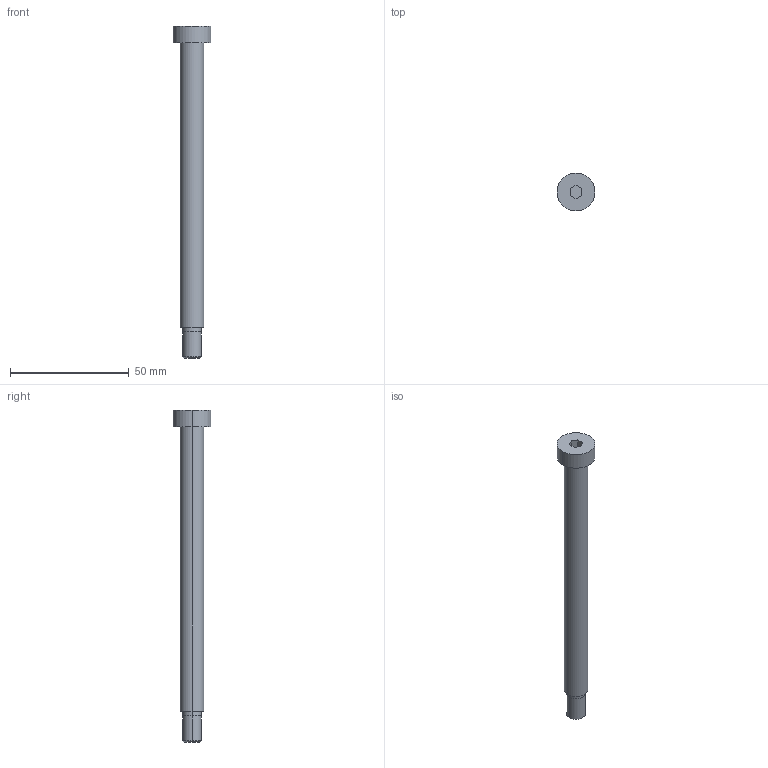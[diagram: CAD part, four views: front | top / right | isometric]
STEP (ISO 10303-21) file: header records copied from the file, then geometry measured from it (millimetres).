
FILE_DESCRIPTION (( 'STEP AP214' ), '1' );
FILE_NAME ('BruyRubio_TPM__8_x_120.STEP', '2019-12-22T23:17:09', ( '' ), ( '' ), 'SwSTEP 2.0', 'SolidWorks 2017', '' );
FILE_SCHEMA (( 'AUTOMOTIVE_DESIGN' ));
Length unit declared in the file: millimetre
Products named in the file (1): BruyRubio_TPM__8_x_120
Bounding box: 16 x 16 x 140 mm (x, y, z)
Volume: 11394.9 mm3; surface area: 5398.8 mm2
Topology: 2 solids, 2 shells, 27 faces, 56 edges, 36 vertices
Faces by surface type: plane 13, cylinder 12, cone 2
Entity records: 1066 total; most frequent: DIRECTION 136, CARTESIAN_POINT 120, ORIENTED_EDGE 112, EDGE_CURVE 56, AXIS2_PLACEMENT_3D 52, VERTEX_POINT 36, VECTOR 32, LINE 32
